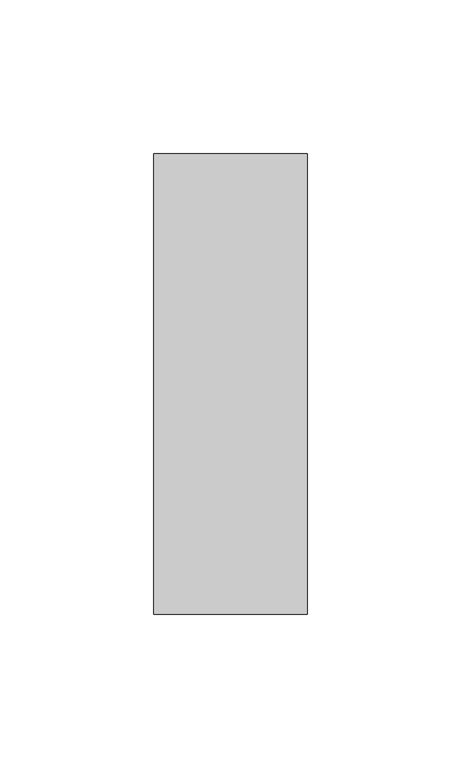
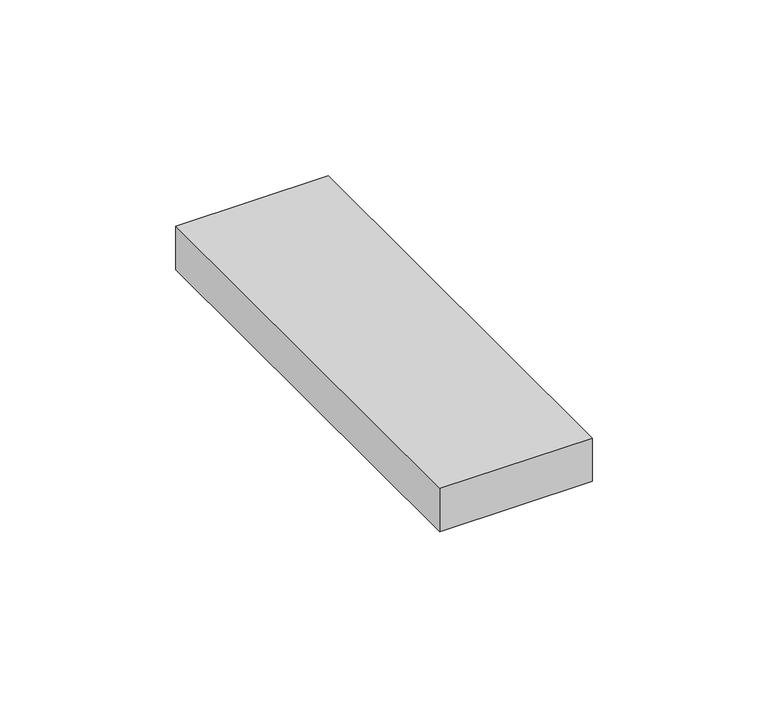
"""IFC4 building model written with IfcOpenShell, lengths in millimetres: duct fitting geometry, Заглушка торцевая - для односекционных кабель-каналов DLP - белый : 50х150мм."""

from ifc_helpers import new_model, si_unit, origin, origin_with_axes, place, context, project, spatial, polyline, outline, extrude, source, transform, mapped, element, save


def duct_fitting_b943002c(model_context):
    return source(origin(), model_context, "Body", "SweptSolid", [
        extrude(outline(polyline([(25.0, 75.0), (25.0, -75.0), (-25.0, -75.0), (-25.0, 75.0), (25.0, 75.0)])), origin_with_axes(), (0.0, 0.0, 1.0), 15.0),
    ])


if __name__ == "__main__":
    model = new_model("IFC4")
    model_context = context("Model", 3, world=origin())
    ifc_project = project(units=[si_unit("LENGTHUNIT", "METRE", prefix="MILLI")], contexts=[model_context])
    site = spatial("IfcSite", under=ifc_project)
    building = spatial("IfcBuilding", under=site)
    placement = place(None, origin())
    duct_fitting_shape = duct_fitting_b943002c(model_context)
    element("IfcDuctFitting", 1, ObjectType="Заглушка торцевая - для односекционных кабель-каналов DLP - белый : 50х150мм", at=placement, inside=building, context=model_context, shape_type="MappedRepresentation", body=[
        mapped(duct_fitting_shape, transform((0.0, 0.0, 0.0), x_axis=(1.0, 0.0, 0.0), y_axis=(0.0, 1.0, 0.0), z_axis=(0.0, 0.0, 1.0))),
    ])
    save(model, "model.ifc")
